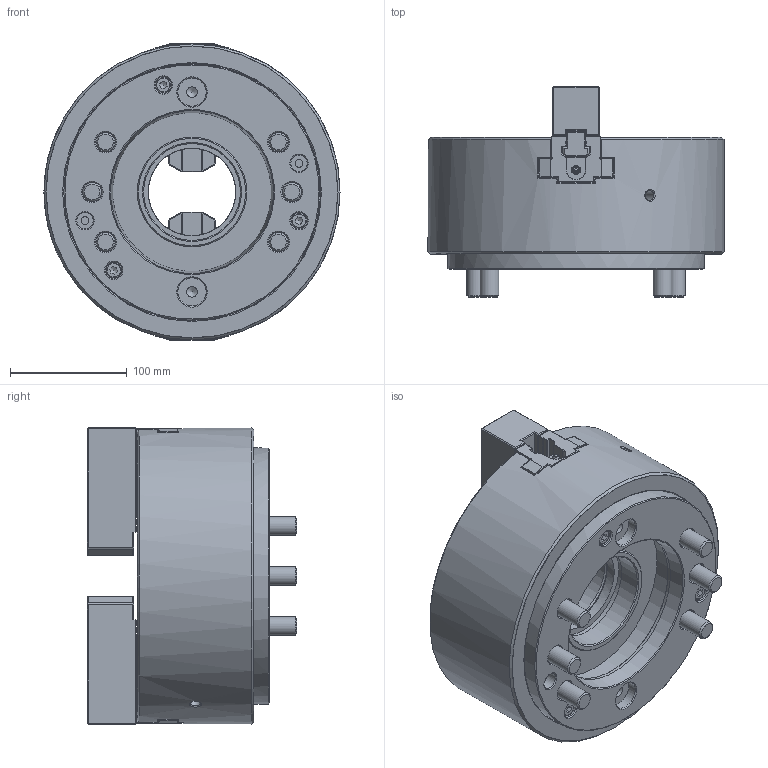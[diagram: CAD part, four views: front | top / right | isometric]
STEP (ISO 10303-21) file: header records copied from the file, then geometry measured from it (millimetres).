
FILE_DESCRIPTION(/* description */ (''),/* implementation_level */ '2;1');
FILE_NAME(/* name */ 'C:\Users\034\Desktop\需重新取代\OPT-210-A8.stp',/* time_stamp */ '2024-09-04T16:16:59+08:00',/* author */ ('034'),/* organization */ (''),/* preprocessor_version */ 'ST-DEVELOPER v16.13',/* originating_system */ 'Autodesk Inventor 2018',/* authorisation */ '');
FILE_SCHEMA (('AUTOMOTIVE_DESIGN { 1 0 10303 214 3 1 1 }'));
Products named in the file (1): OPT-210-A8
Bounding box: 254 x 179.99 x 254.38 mm (x, y, z)
Volume: 4870622.8 mm3; surface area: 404828.1 mm2
Topology: 1 solids, 15 shells, 4445 faces, 14056 edges, 9014 vertices
Faces by surface type: plane 2838, cylinder 1009, bspline 364, cone 177, torus 47, sphere 10
Full cylindrical faces by diameter (mm): 3 x8, 3.8 x4, 5.1 x4, 5.2 x2, 6 x6, 6.5 x4, 6.8 x2, 8 x3, 8.6 x2, 9 x3, 10.3 x10, 10.5 x4, 11 x4, 12 x4, 13 x7, 14 x5, 16 x6, 17 x6, 18 x4, 19 x4, 24 x6, 24.2 x2, 25 x6, 75 x1, 75.2 x1, 78.5 x1, 79 x1, 79.2 x1, 80 x2, 83 x1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
Entity records: 154997 total; most frequent: CARTESIAN_POINT 32425, ORIENTED_EDGE 27282, DIRECTION 23614, EDGE_CURVE 13641, LINE 9976, VECTOR 9976, VERTEX_POINT 8897, AXIS2_PLACEMENT_3D 6819
